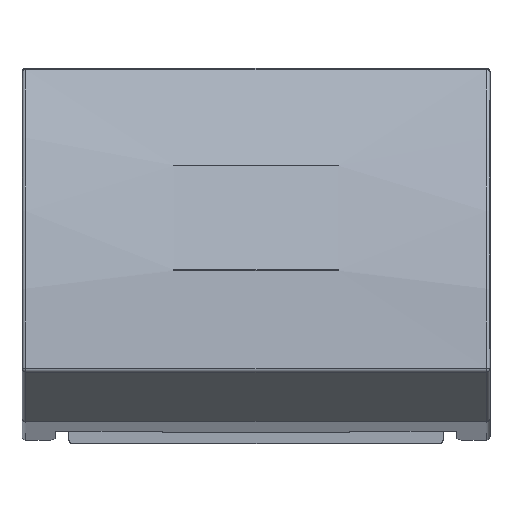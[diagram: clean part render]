
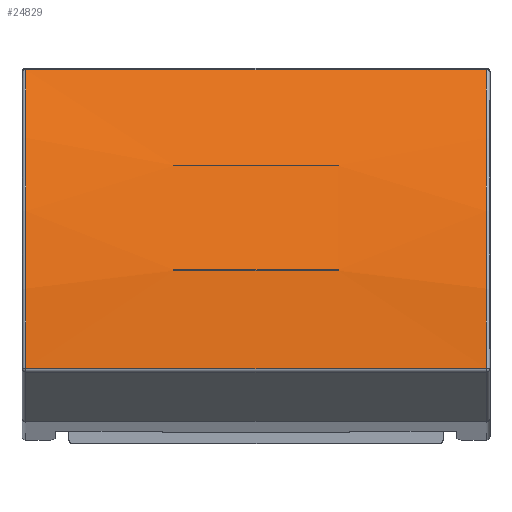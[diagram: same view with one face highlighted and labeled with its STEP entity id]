
A CAD part, top view. The second image highlights one B-rep face of the part: STEP entity #24829.
In plain terms, the highlighted cylindrical face has radius 15.3 mm (diameter 30.6 mm), a partial arc.
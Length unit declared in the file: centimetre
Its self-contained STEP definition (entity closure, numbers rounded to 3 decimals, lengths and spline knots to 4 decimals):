
#511=FACE_BOUND($,#2962,.T.);
#512=FACE_BOUND($,#2963,.T.);
#513=FACE_BOUND($,#2964,.T.);
#694=CYLINDRICAL_SURFACE($,#26168,1.53);
#1019=CIRCLE($,#26089,1.53);
#1020=CIRCLE($,#26091,1.53);
#1021=CIRCLE($,#26094,1.53);
#1024=CIRCLE($,#26100,1.53);
#1050=CIRCLE($,#26164,1.53);
#1051=CIRCLE($,#26167,1.53);
#2962=EDGE_LOOP($,(#15702,#15703,#15704,#15705));
#2963=EDGE_LOOP($,(#15706,#15707,#15708,#15709));
#2964=EDGE_LOOP($,(#15710,#15711,#15712,#15713));
#4274=LINE($,#34240,#6810);
#4342=LINE($,#34386,#6878);
#4384=LINE($,#34504,#6920);
#4388=LINE($,#34512,#6924);
#4411=LINE($,#34573,#6947);
#4440=LINE($,#34671,#6976);
#6810=VECTOR($,#27943,0.44);
#6878=VECTOR($,#28061,0.44);
#6920=VECTOR($,#28161,0.44);
#6924=VECTOR($,#28171,0.44);
#6947=VECTOR($,#28222,1.23);
#6976=VECTOR($,#28329,1.23);
#9346=VERTEX_POINT($,#34237);
#9347=VERTEX_POINT($,#34239);
#9399=VERTEX_POINT($,#34383);
#9400=VERTEX_POINT($,#34385);
#9407=VERTEX_POINT($,#34414);
#9408=VERTEX_POINT($,#34418);
#9412=VERTEX_POINT($,#34430);
#9414=VERTEX_POINT($,#34440);
#9443=VERTEX_POINT($,#34529);
#9460=VERTEX_POINT($,#34572);
#9469=VERTEX_POINT($,#34593);
#9476=VERTEX_POINT($,#34621);
#11726=EDGE_CURVE($,#9347,#9346,#4274,.T.);
#11798=EDGE_CURVE($,#9400,#9399,#4342,.T.);
#11814=EDGE_CURVE($,#9399,#9407,#1019,.T.);
#11815=EDGE_CURVE($,#9408,#9347,#1020,.T.);
#11822=EDGE_CURVE($,#9346,#9412,#1021,.T.);
#11826=EDGE_CURVE($,#9414,#9400,#1024,.T.);
#11853=EDGE_CURVE($,#9412,#9408,#4384,.T.);
#11857=EDGE_CURVE($,#9407,#9414,#4388,.T.);
#11887=EDGE_CURVE($,#9443,#9460,#4411,.T.);
#11936=EDGE_CURVE($,#9460,#9469,#1050,.T.);
#11937=EDGE_CURVE($,#9469,#9476,#4440,.T.);
#11939=EDGE_CURVE($,#9476,#9443,#1051,.T.);
#15702=ORIENTED_EDGE($,*,*,#11814,.T.);
#15703=ORIENTED_EDGE($,*,*,#11857,.T.);
#15704=ORIENTED_EDGE($,*,*,#11826,.T.);
#15705=ORIENTED_EDGE($,*,*,#11798,.T.);
#15706=ORIENTED_EDGE($,*,*,#11726,.T.);
#15707=ORIENTED_EDGE($,*,*,#11822,.T.);
#15708=ORIENTED_EDGE($,*,*,#11853,.T.);
#15709=ORIENTED_EDGE($,*,*,#11815,.T.);
#15710=ORIENTED_EDGE($,*,*,#11887,.F.);
#15711=ORIENTED_EDGE($,*,*,#11939,.F.);
#15712=ORIENTED_EDGE($,*,*,#11937,.F.);
#15713=ORIENTED_EDGE($,*,*,#11936,.F.);
#24829=ADVANCED_FACE($,(#511,#512,#513),#694,.T.);
#26089=AXIS2_PLACEMENT_3D($,#34416,#28092,#28093);
#26091=AXIS2_PLACEMENT_3D($,#34419,#28096,#28097);
#26094=AXIS2_PLACEMENT_3D($,#34432,#28108,#28109);
#26100=AXIS2_PLACEMENT_3D($,#34441,#28121,#28122);
#26164=AXIS2_PLACEMENT_3D($,#34669,#28325,#28326);
#26167=AXIS2_PLACEMENT_3D($,#34674,#28333,#28334);
#26168=AXIS2_PLACEMENT_3D($,#34675,#28335,#28336);
#27943=DIRECTION($,(-1.,0.,0.));
#28061=DIRECTION($,(1.,0.,0.));
#28092=DIRECTION('center_axis',(1.,0.,0.));
#28093=DIRECTION('ref_axis',(0.,-0.071,
-0.997));
#28096=DIRECTION('center_axis',(1.,0.,0.));
#28097=DIRECTION('ref_axis',(0.,-0.071,
-0.997));
#28108=DIRECTION('center_axis',(-1.,0.,0.));
#28109=DIRECTION('ref_axis',(0.,-0.071,
-0.997));
#28121=DIRECTION('center_axis',(-1.,0.,0.));
#28122=DIRECTION('ref_axis',(0.,-0.071,
-0.997));
#28161=DIRECTION($,(1.,0.,0.));
#28171=DIRECTION($,(-1.,0.,0.));
#28222=DIRECTION($,(1.,0.,0.));
#28325=DIRECTION('center_axis',(1.,0.,0.));
#28326=DIRECTION('ref_axis',(0.,0.35,0.937));
#28329=DIRECTION($,(-1.,0.,0.));
#28333=DIRECTION('center_axis',(-1.,0.,0.));
#28334=DIRECTION('ref_axis',(0.,0.35,0.937));
#28335=DIRECTION('center_axis',(-1.,0.,0.));
#28336=DIRECTION('ref_axis',(0.,-0.071,
-0.997));
#34237=CARTESIAN_POINT('',(-0.22,0.2411,1.0837));
#34239=CARTESIAN_POINT('',(0.22,0.2411,1.0837));
#34240=CARTESIAN_POINT($,(0.,0.2411,1.0837));
#34383=CARTESIAN_POINT('',(0.22,-0.0373,1.1843));
#34385=CARTESIAN_POINT('',(-0.22,-0.0373,1.1843));
#34386=CARTESIAN_POINT($,(0.,-0.0373,1.1843));
#34414=CARTESIAN_POINT('',(0.22,-0.0402,1.1851));
#34416=CARTESIAN_POINT('Origin',(0.22,-0.4161,-0.298));
#34418=CARTESIAN_POINT('',(0.22,0.242,1.0832));
#34419=CARTESIAN_POINT('Origin',(0.22,-0.4161,-0.298));
#34430=CARTESIAN_POINT('',(-0.22,0.242,1.0832));
#34432=CARTESIAN_POINT('Origin',(-0.22,-0.4161,
-0.298));
#34440=CARTESIAN_POINT('',(-0.22,-0.0402,1.1851));
#34441=CARTESIAN_POINT('Origin',(-0.22,-0.4161,
-0.298));
#34504=CARTESIAN_POINT($,(0.625,0.242,1.0832));
#34512=CARTESIAN_POINT($,(0.625,-0.0402,1.1851));
#34529=CARTESIAN_POINT('',(-0.615,0.4975,0.9292));
#34572=CARTESIAN_POINT('',(0.615,0.4975,0.9292));
#34573=CARTESIAN_POINT($,(0.625,0.4975,0.9292));
#34593=CARTESIAN_POINT('',(0.615,-0.3012,1.2276));
#34621=CARTESIAN_POINT('',(-0.615,-0.3012,1.2276));
#34669=CARTESIAN_POINT('Origin',(0.615,-0.4161,-0.298));
#34671=CARTESIAN_POINT($,(0.625,-0.3012,1.2276));
#34674=CARTESIAN_POINT('Origin',(-0.615,-0.4161,
-0.298));
#34675=CARTESIAN_POINT('Origin',(0.625,-0.4161,-0.298));
